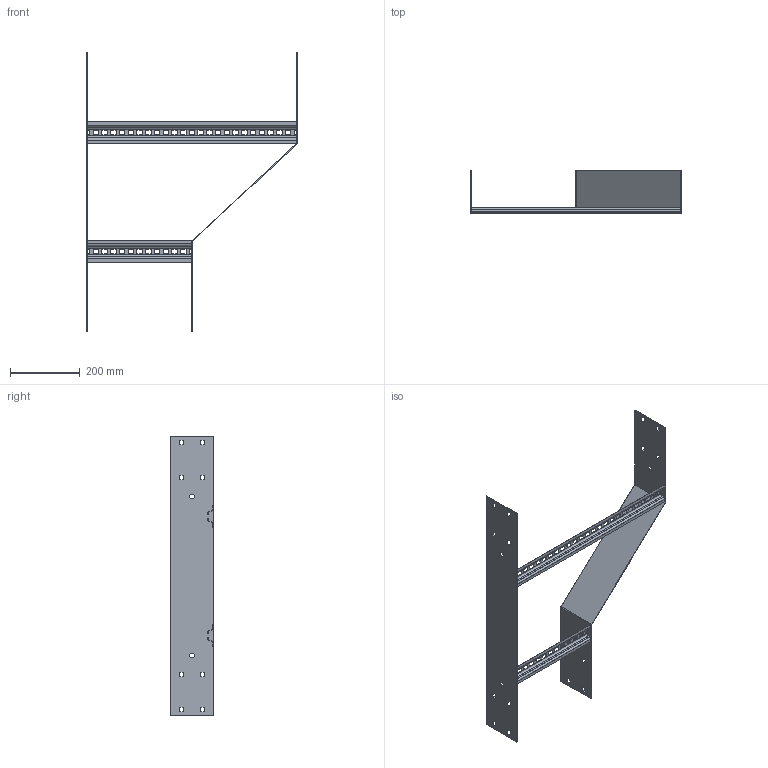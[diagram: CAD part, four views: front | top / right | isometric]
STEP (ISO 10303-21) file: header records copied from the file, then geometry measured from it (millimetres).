
FILE_DESCRIPTION (( 'STEP AP203' ), '1' );
FILE_NAME ('N3 LHR600300.STEP', '2024-08-27T06:17:48', ( '' ), ( '' ), 'SwSTEP 2.0', 'SolidWorks 2023', '' );
FILE_SCHEMA (( 'CONFIG_CONTROL_DESIGN' ));
Length unit declared in the file: millimetre
Products named in the file (5): Ladder Rung_Ladder Rung -  300mm; N3 Reducer side plate_LHR300x600; N3 LHR600300; Ladder Rung_Ladder Rung -  600mm; N3 Back Plate_800
Assembly tree (4 placements, depth 2):
  N3 LHR600300
    N3 Reducer side plate_LHR300x600
    Ladder Rung_Ladder Rung -  300mm
    Ladder Rung_Ladder Rung -  600mm
    N3 Back Plate_800
Bounding box: 604 x 124 x 800 mm (x, y, z)
Volume: 519281.3 mm3; surface area: 559704.1 mm2
Topology: 4 solids, 4 shells, 328 faces, 880 edges, 560 vertices
Faces by surface type: plane 300, cylinder 28
Entity records: 10719 total; most frequent: CARTESIAN_POINT 1775, ORIENTED_EDGE 1760, DIRECTION 1606, EDGE_CURVE 880, VECTOR 824, LINE 824, VERTEX_POINT 560, EDGE_LOOP 436
